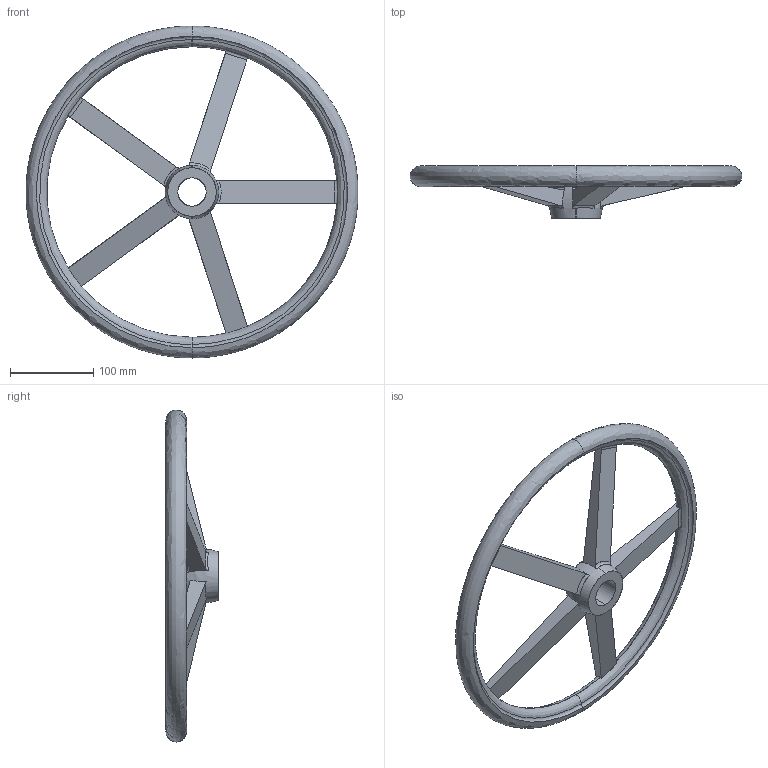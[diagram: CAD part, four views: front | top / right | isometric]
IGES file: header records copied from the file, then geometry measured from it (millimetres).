
Start section: SolidWorks IGES file using analytic representation for surfaces
Global section: file name: C:\Users\IanO\Desktop\Temp File\Process pending\77120_v2\77120_v2_20171108_IGES\77120.W0051.igs; native system: SolidWorks 2017; preprocessor: SolidWorks 2017; author: IanO; date: 171108.084123; units: millimetre
Bounding box: 400 x 63 x 400 mm (x, y, z)
Surface area: 165297.8 mm2 (no closed solid volume)
Topology: 0 solids, 0 shells, 51 faces, 1193 edges, 1185 vertices
Faces by surface type: bspline 49, revolution 2
